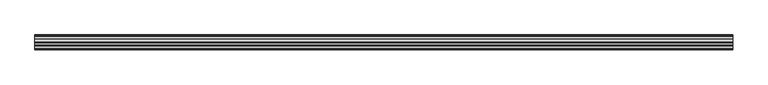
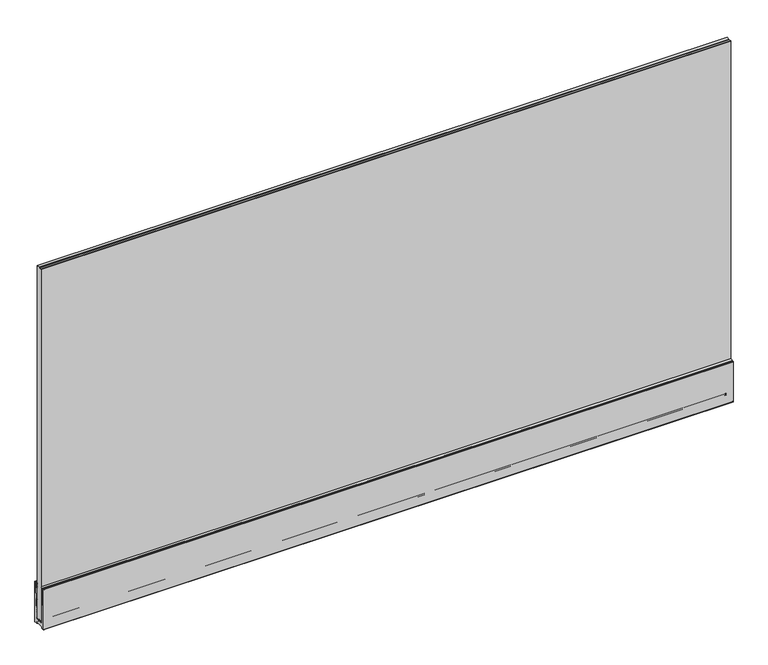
"""IFC4 building model written with IfcOpenShell, lengths in millimetres: railing geometry, Extrusal-F100-Serviços."""

from ifc_helpers import new_model, si_unit, point, frame, frame_2d, origin, place, context, project, spatial, polyline, circle_curve, trimmed, segment, composite_curve, outline, extrude, source, transform, mapped, element, save


def railing_58184d31(model_context):
    return source(origin(), model_context, "Body", "SweptSolid", [
        extrude(outline(polyline([(5732.5907209, 19.75), (5732.5907209, 1099.0), (5733.5907209, 1100.0), (5739.5907209, 1100.0), (5740.5907209, 1099.0), (5742.1407209, 1099.0), (5743.1407209, 1100.0), (5751.0907209, 1100.0), (5752.0907209, 1099.0), (5752.0907209, 19.75), (5751.0907209, 18.75), (5743.1407209, 18.75), (5742.1407209, 19.75), (5740.5907209, 19.75), (5739.5907209, 18.75), (5733.5907209, 18.75), (5732.5907209, 19.75)])), frame((-6622.4840845, 0.0, 0.0), z_axis=(1.0, 0.0, 0.0), x_axis=(0.0, 1.0, 0.0)), (0.0, 0.0, 1.0), 2000.0),
        extrude(outline(composite_curve([segment(trimmed(circle_curve(frame_2d((5762.8407209, 1.0)), 1.0), [point((5763.8407209, 1.0))], [point((5762.8407209, 0.0))], False, "CARTESIAN"), True, "CONTINUOUS"), segment(polyline([(5762.8407209, 0.0), (5755.3407209, 0.0)]), True, "CONTINUOUS"), segment(trimmed(circle_curve(frame_2d((5755.3407209, 0.5)), 0.5), [point((5755.3407209, 0.0))], [point((5754.8407209, 0.5))], False, "CARTESIAN"), True, "CONTINUOUS"), segment(polyline([(5754.8407209, 0.5), (5754.8407209, 4.0)]), True, "CONTINUOUS"), segment(trimmed(circle_curve(frame_2d((5753.8407209, 4.0)), 1.0), [point((5754.8407209, 4.0))], [point((5753.8407209, 5.0))], True, "CARTESIAN"), True, "CONTINUOUS"), segment(polyline([(5753.8407209, 5.0), (5730.8407209, 5.0)]), True, "CONTINUOUS"), segment(trimmed(circle_curve(frame_2d((5730.8407209, 4.0)), 1.0), [point((5730.8407209, 5.0))], [point((5729.8407209, 4.0))], True, "CARTESIAN"), True, "CONTINUOUS"), segment(polyline([(5729.8407209, 4.0), (5729.8407209, 0.5)]), True, "CONTINUOUS"), segment(trimmed(circle_curve(frame_2d((5729.3407209, 0.5)), 0.5), [point((5729.8407209, 0.5))], [point((5729.3407209, 0.0))], False, "CARTESIAN"), True, "CONTINUOUS"), segment(polyline([(5729.3407209, 0.0), (5721.8407209, 0.0)]), True, "CONTINUOUS"), segment(trimmed(circle_curve(frame_2d((5721.8407209, 1.0)), 1.0), [point((5721.8407209, 0.0))], [point((5720.8407209, 1.0))], False, "CARTESIAN"), True, "CONTINUOUS"), segment(polyline([(5720.8407209, 1.0), (5720.8407209, 123.0)]), True, "CONTINUOUS"), segment(trimmed(circle_curve(frame_2d((5721.8407209, 123.0)), 1.0), [point((5720.8407209, 123.0))], [point((5721.8407209, 124.0))], False, "CARTESIAN"), True, "CONTINUOUS"), segment(polyline([(5721.8407209, 124.0), (5725.8407209, 124.0), (5725.8407209, 123.0), (5724.8407209, 123.0), (5724.8407209, 109.8), (5725.8407209, 109.8), (5730.3407209, 32.0), (5730.3407209, 16.5)]), True, "CONTINUOUS"), segment(trimmed(circle_curve(frame_2d((5730.8407209, 16.5)), 0.5), [point((5730.3407209, 16.5))], [point((5730.8407209, 16.0))], True, "CARTESIAN"), True, "CONTINUOUS"), segment(polyline([(5730.8407209, 16.0), (5753.8407209, 16.0)]), True, "CONTINUOUS"), segment(trimmed(circle_curve(frame_2d((5753.8407209, 16.5)), 0.5), [point((5753.8407209, 16.0))], [point((5754.3407209, 16.5))], True, "CARTESIAN"), True, "CONTINUOUS"), segment(polyline([(5754.3407209, 16.5), (5754.3407209, 32.0), (5758.8407209, 109.8), (5758.8407209, 124.0), (5763.8407209, 124.0), (5763.8407209, 1.0)]), True, "CONTINUOUS")], self_intersect=False)), frame((-6622.4840845, 0.0, 0.0), z_axis=(1.0, 0.0, 0.0), x_axis=(0.0, 1.0, 0.0)), (0.0, 0.0, 1.0), 2000.0),
        extrude(outline(polyline([(5751.8407209, 76.0), (5756.8676109, 76.0), (5756.7627954, 74.0), (5753.3407209, 74.0), (5753.3407209, 71.0), (5756.605572, 71.0), (5756.5007565, 69.0), (5753.3407209, 69.0), (5753.3407209, 64.0), (5756.2387176, 64.0), (5756.133902, 62.0), (5753.3407209, 62.0), (5753.3407209, 57.0), (5755.8718631, 57.0), (5755.7670476, 55.0), (5753.3407209, 55.0), (5753.3407209, 50.0), (5755.5050087, 50.0), (5755.4001931, 48.0), (5753.3407209, 48.0), (5753.3407209, 43.0), (5755.1381542, 43.0), (5755.0333387, 41.0), (5753.3407209, 41.0), (5753.3407209, 36.0), (5754.7712998, 36.0), (5754.6664842, 34.0), (5753.3407209, 34.0), (5753.3407209, 28.0), (5754.3407209, 28.0), (5754.3407209, 26.0), (5753.3407209, 26.0), (5753.3407209, 20.0), (5754.3407209, 20.0), (5754.3407209, 17.5), (5752.8407209, 17.5), (5752.8407209, 16.0), (5750.8407209, 16.0), (5750.8407209, 17.5), (5747.8407209, 17.5), (5747.8407209, 16.0), (5745.8407209, 16.0), (5745.8407209, 17.5), (5742.8407209, 17.5), (5742.8407209, 16.0), (5740.8407209, 16.0), (5740.8407209, 17.5), (5737.8407209, 17.5), (5737.8407209, 16.0), (5735.8407209, 16.0), (5735.8407209, 17.5), (5732.8407209, 17.5), (5732.8407209, 16.0), (5730.8407209, 16.0), (5730.8407209, 19.0), (5751.8407209, 19.0), (5751.8407209, 76.0)])), frame((-6622.4840845, 0.0, 0.0), z_axis=(1.0, 0.0, 0.0), x_axis=(0.0, 1.0, 0.0)), (0.0, 0.0, 1.0), 2000.0),
        extrude(outline(composite_curve([segment(polyline([(5758.8407209, 124.0), (5758.8407209, 109.7815722), (5752.94072, 108.8815407), (5751.44072, 110.9673162), (5752.44072, 112.1895362), (5751.44072, 113.5228695), (5752.44072, 114.7450895), (5751.44072, 116.0784228), (5752.44072, 117.3006428), (5751.44072, 118.6339762), (5752.44072, 119.8561962), (5751.44072, 121.1895295), (5752.44072, 122.5479161), (5750.94072, 124.3112017), (5750.94072, 126.1660696)]), True, "CONTINUOUS"), segment(trimmed(circle_curve(frame_2d((5750.0648128, 87.8576514)), 38.3184305), [point((5750.94072, 126.1660696))], [point((5758.6537692, 125.2010838))], False, "CARTESIAN"), True, "CONTINUOUS"), segment(trimmed(circle_curve(frame_2d((5756.4123005, 115.4555301)), 10.0), [point((5758.6537692, 125.2010838))], [point((5759.8336403, 124.8520418))], False, "CARTESIAN"), True, "CONTINUOUS"), segment(trimmed(circle_curve(frame_2d((5750.6757563, 99.7004438)), 26.7669521), [point((5759.8336403, 124.8520418))], [point((5761.900786, 124.0))], False, "CARTESIAN"), True, "CONTINUOUS"), segment(polyline([(5761.900786, 124.0), (5758.8407209, 124.0)]), True, "CONTINUOUS")], self_intersect=False)), frame((-6622.4840845, 0.0, 0.0), z_axis=(1.0, 0.0, 0.0), x_axis=(0.0, 1.0, 0.0)), (0.0, 0.0, 1.0), 2000.0),
        extrude(outline(composite_curve([segment(polyline([(5725.1844869, 124.0), (5723.8326927, 124.0)]), True, "CONTINUOUS"), segment(trimmed(circle_curve(frame_2d((5734.2056846, 99.6504499)), 26.4669521), [point((5723.8326927, 124.0))], [point((5733.9407209, 126.1160756))], False, "CARTESIAN"), True, "CONTINUOUS"), segment(polyline([(5733.9407209, 126.1160756), (5733.9407209, 124.2612077), (5732.3082964, 122.4979222), (5733.4197056, 121.1395355), (5732.4197056, 119.8062022), (5733.4197056, 118.5839822), (5732.4197056, 117.2506489), (5733.4197056, 116.0284289), (5732.4197056, 114.6950955), (5733.4197056, 113.4728755), (5732.4197056, 112.1395422), (5733.4197056, 110.9173222), (5731.855374, 108.8315467), (5724.8407209, 109.9173222), (5724.8407209, 122.6173222), (5726.0407209, 122.6173222), (5726.0407209, 124.3003174)]), True, "CONTINUOUS"), segment(trimmed(circle_curve(frame_2d((5734.2056846, 99.6504499)), 25.9669521), [point((5726.0407209, 124.3003174))], [point((5725.1844869, 124.0))], True, "CARTESIAN"), True, "CONTINUOUS")], self_intersect=False)), frame((-6622.4840845, 0.0, 0.0), z_axis=(1.0, 0.0, 0.0), x_axis=(0.0, 1.0, 0.0)), (0.0, 0.0, 1.0), 2000.0),
    ])


if __name__ == "__main__":
    model = new_model("IFC4")
    model_context = context("Model", 3, world=origin())
    ifc_project = project(units=[si_unit("LENGTHUNIT", "METRE", prefix="MILLI")], contexts=[model_context])
    site = spatial("IfcSite", under=ifc_project)
    building = spatial("IfcBuilding", under=site)
    placement = place(None, origin())
    railing_shape = railing_58184d31(model_context)
    element("IfcRailing", 1, ObjectType="Extrusal-F100-Serviços", at=placement, inside=building, context=model_context, shape_type="MappedRepresentation", body=[
        mapped(railing_shape, transform((0.0, 0.0, 0.0), x_axis=(1.0, 0.0, 0.0), y_axis=(0.0, 1.0, 0.0), z_axis=(0.0, 0.0, 1.0))),
    ])
    save(model, "model.ifc")
